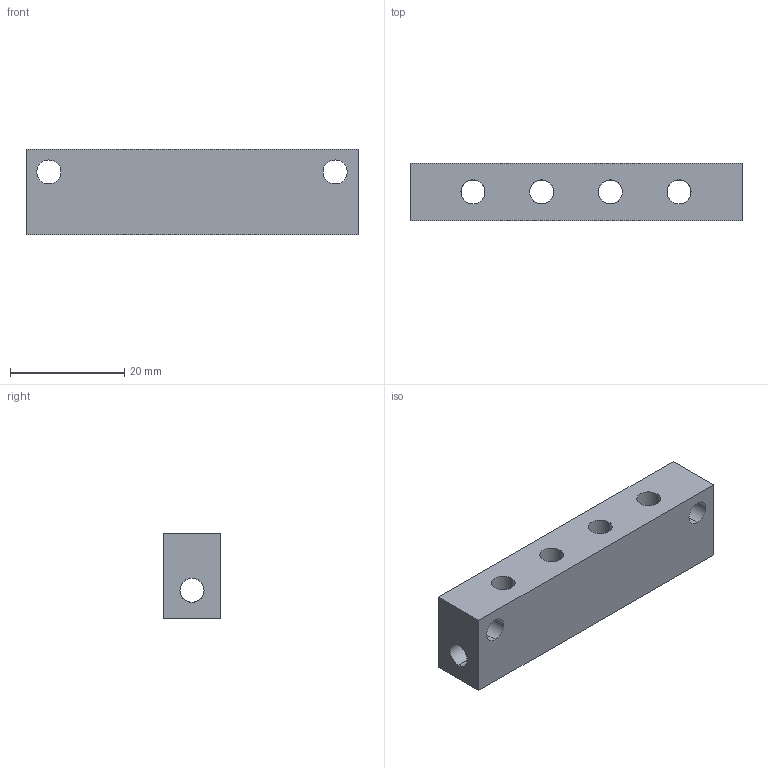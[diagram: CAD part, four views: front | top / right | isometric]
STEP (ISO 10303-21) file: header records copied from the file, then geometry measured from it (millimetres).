
FILE_DESCRIPTION (( 'STEP AP214' ), '1' );
FILE_NAME ('SMB-10M5.STEP', '2019-11-06T02:47:54', ( '微软用户' ), ( '微软中国' ), 'SwSTEP 2.0', 'SolidWorks 2016', '' );
FILE_SCHEMA (( 'AUTOMOTIVE_DESIGN' ));
Length unit declared in the file: millimetre
Products named in the file (1): SMB-10M5
Bounding box: 58 x 10 x 15 mm (x, y, z)
Volume: 6985.7 mm3; surface area: 4544.7 mm2
Topology: 1 solids, 1 shells, 36 faces, 102 edges, 60 vertices
Faces by surface type: cylinder 30, plane 6
Entity records: 1550 total; most frequent: CARTESIAN_POINT 295, ORIENTED_EDGE 204, DIRECTION 172, EDGE_CURVE 102, AXIS2_PLACEMENT_3D 65, VERTEX_POINT 60, EDGE_LOOP 50, LINE 42
